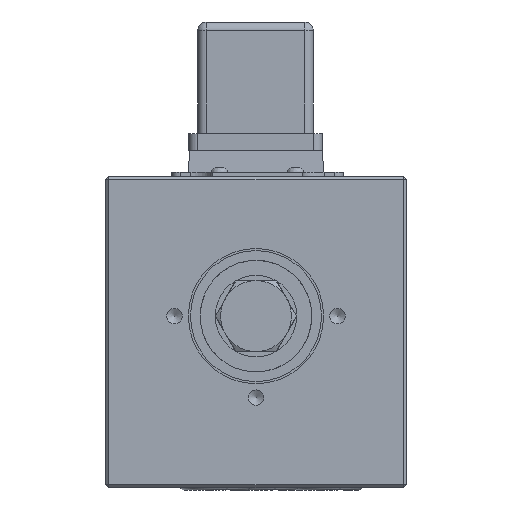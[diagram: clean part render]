
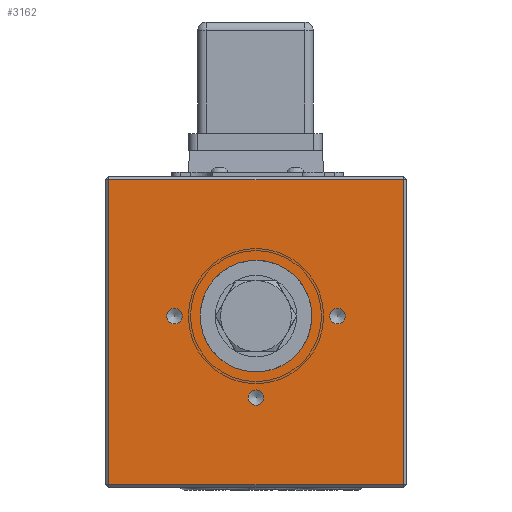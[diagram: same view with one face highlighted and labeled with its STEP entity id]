
A CAD part, left-side view. The second image highlights one B-rep face of the part: STEP entity #3162.
In plain terms, the highlighted planar face has unit normal (-1, 0, 0).
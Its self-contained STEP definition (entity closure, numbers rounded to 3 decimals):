
#2829=FACE_BOUND('',#5017,.T.);
#2830=FACE_BOUND('',#5018,.T.);
#2831=FACE_BOUND('',#5019,.T.);
#2832=FACE_BOUND('',#5020,.T.);
#3162=ADVANCED_FACE('',(#2829,#2830,#2831,#2832),#3835,.T.);
#3835=PLANE('',#15000);
#5017=EDGE_LOOP('',(#8722));
#5018=EDGE_LOOP('',(#8723));
#5019=EDGE_LOOP('',(#8724));
#5020=EDGE_LOOP('',(#8725,#8726,#8727,#8728));
#6014=LINE('',#22473,#7187);
#6015=LINE('',#22476,#7188);
#6016=LINE('',#22478,#7189);
#6017=LINE('',#22480,#7190);
#7187=VECTOR('',#16611,1.);
#7188=VECTOR('',#16612,1.);
#7189=VECTOR('',#16613,1.);
#7190=VECTOR('',#16614,1.);
#8722=ORIENTED_EDGE('',*,*,#13106,.T.);
#8723=ORIENTED_EDGE('',*,*,#13107,.T.);
#8724=ORIENTED_EDGE('',*,*,#13108,.T.);
#8725=ORIENTED_EDGE('',*,*,#13109,.T.);
#8726=ORIENTED_EDGE('',*,*,#13110,.T.);
#8727=ORIENTED_EDGE('',*,*,#13111,.T.);
#8728=ORIENTED_EDGE('',*,*,#13112,.T.);
#11865=VERTEX_POINT('',#22468);
#11866=VERTEX_POINT('',#22470);
#11867=VERTEX_POINT('',#22472);
#11868=VERTEX_POINT('',#22474);
#11869=VERTEX_POINT('',#22475);
#11870=VERTEX_POINT('',#22477);
#11871=VERTEX_POINT('',#22479);
#13106=EDGE_CURVE('',#11865,#11865,#14518,.T.);
#13107=EDGE_CURVE('',#11866,#11866,#14519,.T.);
#13108=EDGE_CURVE('',#11867,#11867,#14520,.T.);
#13109=EDGE_CURVE('',#11868,#11869,#6014,.T.);
#13110=EDGE_CURVE('',#11869,#11870,#6015,.T.);
#13111=EDGE_CURVE('',#11870,#11871,#6016,.T.);
#13112=EDGE_CURVE('',#11871,#11868,#6017,.T.);
#14518=CIRCLE('',#14997,1.8);
#14519=CIRCLE('',#14998,1.8);
#14520=CIRCLE('',#14999,1.8);
#14997=AXIS2_PLACEMENT_3D('',#22467,#16605,#16606);
#14998=AXIS2_PLACEMENT_3D('',#22469,#16607,#16608);
#14999=AXIS2_PLACEMENT_3D('',#22471,#16609,#16610);
#15000=AXIS2_PLACEMENT_3D('',#22481,#16615,#16616);
#16605=DIRECTION('',(1.,0.,0.));
#16606=DIRECTION('',(0.,0.,-1.));
#16607=DIRECTION('',(1.,0.,0.));
#16608=DIRECTION('',(0.,0.,-1.));
#16609=DIRECTION('',(1.,0.,0.));
#16610=DIRECTION('',(0.,0.,-1.));
#16611=DIRECTION('',(0.,0.,1.));
#16612=DIRECTION('',(0.,1.,0.));
#16613=DIRECTION('',(0.,0.,-1.));
#16614=DIRECTION('',(0.,-1.,0.));
#16615=DIRECTION('',(-1.,0.,0.));
#16616=DIRECTION('',(0.,0.,-1.));
#22467=CARTESIAN_POINT('',(0.,54.,-32.5));
#22468=CARTESIAN_POINT('',(0.,54.,-34.3));
#22469=CARTESIAN_POINT('',(0.,35.,-51.5));
#22470=CARTESIAN_POINT('',(0.,35.,-53.3));
#22471=CARTESIAN_POINT('',(0.,16.,-32.5));
#22472=CARTESIAN_POINT('',(0.,16.,-34.3));
#22473=CARTESIAN_POINT('',(0.,0.7,-72.5));
#22474=CARTESIAN_POINT('',(0.,0.7,-71.8));
#22475=CARTESIAN_POINT('',(0.,0.7,-0.7));
#22476=CARTESIAN_POINT('',(0.,70.,-0.7));
#22477=CARTESIAN_POINT('',(0.,69.3,-0.7));
#22478=CARTESIAN_POINT('',(0.,69.3,-72.5));
#22479=CARTESIAN_POINT('',(0.,69.3,-71.8));
#22480=CARTESIAN_POINT('',(0.,0.,-71.8));
#22481=CARTESIAN_POINT('',(0.,70.,-72.5));
